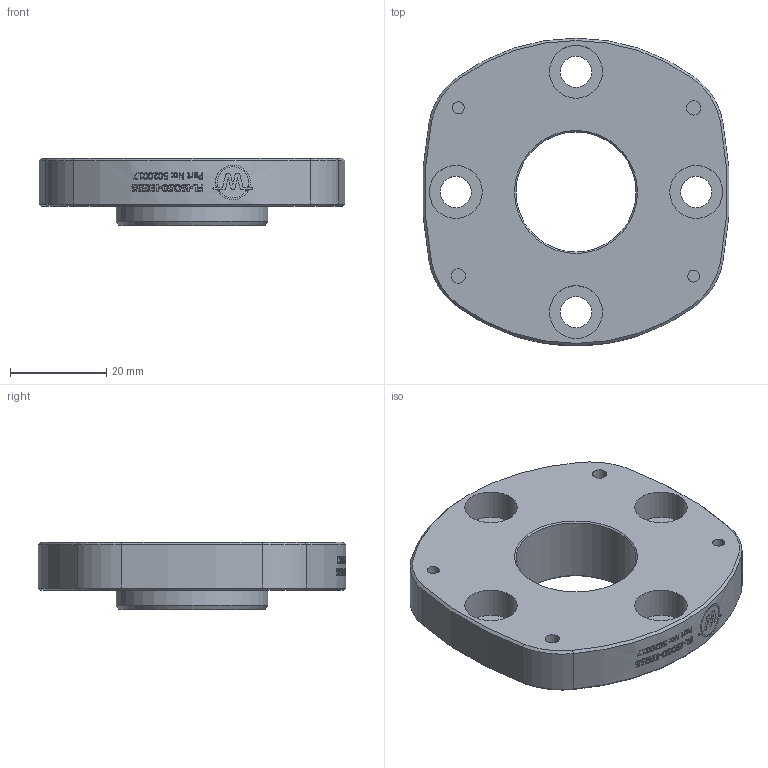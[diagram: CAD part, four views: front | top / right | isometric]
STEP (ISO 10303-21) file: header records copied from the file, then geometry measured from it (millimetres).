
FILE_DESCRIPTION((''),'2;1');
FILE_SCHEMA(('AUTOMOTIVE_DESIGN { 1 0 10303 214 1 1 1 1 }'));
Length unit declared in the file: millimetre
Products named in the file (1): FL-ISO50-IEG55_Customer
Bounding box: 63.68 x 64 x 14 mm (x, y, z)
Volume: 27415.2 mm3; surface area: 10512.3 mm2
Topology: 1 solids, 1 shells, 465 faces, 1218 edges, 806 vertices
Faces by surface type: bspline 276, plane 115, cylinder 55, cone 19
Full cylindrical faces by diameter (mm): 31.5 x1
Entity records: 24123 total; most frequent: CARTESIAN_POINT 14307, ORIENTED_EDGE 2396, DIRECTION 1271, EDGE_CURVE 1198, VERTEX_POINT 805, EDGE_LOOP 545, B_SPLINE_CURVE_WITH_KNOTS 514, VECTOR 477
